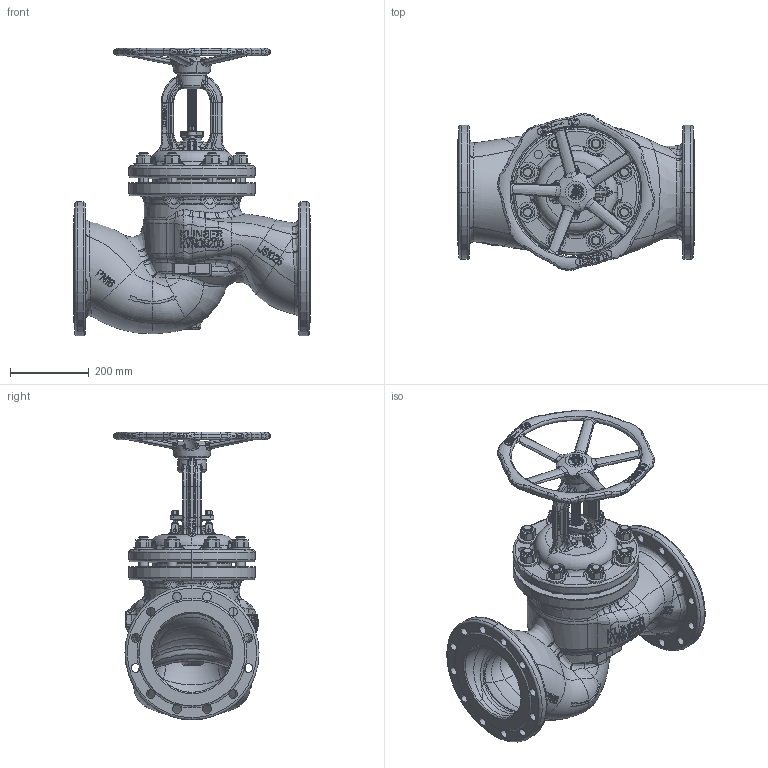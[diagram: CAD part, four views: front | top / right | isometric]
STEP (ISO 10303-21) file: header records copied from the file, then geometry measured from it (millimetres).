
FILE_DESCRIPTION((''),'2;1');
FILE_NAME('KVNFL200S-----P016KGG_SW0001','2015-07-08T',('jeitlers'),('RAND'),'PRO/ENGINEER BY PARAMETRIC TECHNOLOGY CORPORATION, 2013410','PRO/ENGINEER BY PARAMETRIC TECHNOLOGY CORPORATION, 2013410','');
FILE_SCHEMA(('CONFIG_CONTROL_DESIGN'));
Products named in the file (1): KVNFL200S-----P016KGG_SW0001
Bounding box: 600 x 397.46 x 730 mm (x, y, z)
Volume: 20339052 mm3; surface area: 2453928.2 mm2
Topology: 5 solids, 5 shells, 4701 faces, 12249 edges, 7619 vertices
Faces by surface type: plane 2183, bspline 1193, cylinder 731, torus 299, cone 270, sphere 18, extrusion 7
Entity records: 487513 total; most frequent: CARTESIAN_POINT 383100, ORIENTED_EDGE 24470, DIRECTION 17817, EDGE_CURVE 12235, VERTEX_POINT 7619, AXIS2_PLACEMENT_3D 6252, VECTOR 5313, LINE 5306
